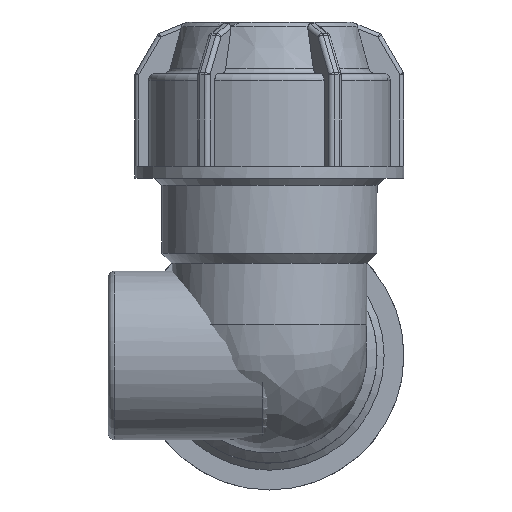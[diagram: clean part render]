
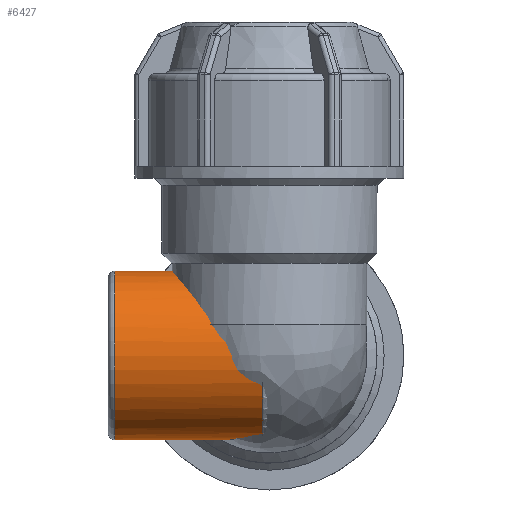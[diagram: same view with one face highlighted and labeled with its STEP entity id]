
A CAD part, left-side view. The second image highlights one B-rep face of the part: STEP entity #6427.
In plain terms, the highlighted cylindrical face has radius 15.676 mm (diameter 31.352 mm), a full revolution.
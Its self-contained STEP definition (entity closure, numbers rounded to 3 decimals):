
#1092=FACE_BOUND('',#2310,.T.);
#1444=CIRCLE('',#7197,15.676);
#1446=CIRCLE('',#7200,15.676);
#1862=FACE_OUTER_BOUND('',#2309,.T.);
#2309=EDGE_LOOP('',(#5870,#5871,#5872));
#2310=EDGE_LOOP('',(#5873));
#2509=B_SPLINE_CURVE_WITH_KNOTS('',3,(#12366,#12367,#12368,#12369,#12370,
#12371,#12372,#12373,#12374,#12375,#12376,#12377,#12378,#12379,#12380,#12381,
#12382,#12383,#12384,#12385,#12386,#12387,#12388,#12389),.UNSPECIFIED.,
 .F.,.F.,(4,2,2,2,2,2,2,2,2,2,2,4),(3.763,3.868,4.097,
4.556,5.007,5.232,5.457,5.683,
5.908,6.359,6.818,6.985),
 .UNSPECIFIED.);
#2512=B_SPLINE_CURVE_WITH_KNOTS('',3,(#12416,#12417,#12418,#12419,#12420,
#12421,#12422,#12423,#12424,#12425,#12426,#12427,#12428,#12429,#12430,#12431,
#12432,#12433,#12434,#12435,#12436,#12437,#12438,#12439),.UNSPECIFIED.,
 .F.,.F.,(4,2,2,2,2,2,2,2,2,2,2,4),(0.291,0.459,
0.918,1.369,1.594,1.819,2.044,
2.27,2.72,3.179,3.409,3.513),
 .UNSPECIFIED.);
#3059=VERTEX_POINT('',#12363);
#3060=VERTEX_POINT('',#12365);
#3062=VERTEX_POINT('',#12405);
#3063=VERTEX_POINT('',#12455);
#3995=EDGE_CURVE('',#3060,#3059,#2509,.T.);
#3999=EDGE_CURVE('',#3059,#3062,#2512,.T.);
#4002=EDGE_CURVE('',#3063,#3063,#1444,.T.);
#4004=EDGE_CURVE('',#3060,#3062,#1446,.T.);
#5870=ORIENTED_EDGE('',*,*,#3999,.T.);
#5871=ORIENTED_EDGE('',*,*,#4004,.F.);
#5872=ORIENTED_EDGE('',*,*,#3995,.T.);
#5873=ORIENTED_EDGE('',*,*,#4002,.F.);
#6012=CYLINDRICAL_SURFACE('',#7199,15.676);
#6427=ADVANCED_FACE('',(#1862,#1092),#6012,.T.);
#7197=AXIS2_PLACEMENT_3D('',#12456,#9095,#9096);
#7199=AXIS2_PLACEMENT_3D('',#12459,#9099,#9100);
#7200=AXIS2_PLACEMENT_3D('',#12460,#9101,#9102);
#9095=DIRECTION('center_axis',(0.,1.,0.));
#9096=DIRECTION('ref_axis',(1.,0.,0.));
#9099=DIRECTION('center_axis',(0.,1.,0.));
#9100=DIRECTION('ref_axis',(-1.,0.,0.));
#9101=DIRECTION('center_axis',(0.,-1.,0.));
#9102=DIRECTION('ref_axis',(1.,0.,0.));
#12363=CARTESIAN_POINT('',(11.085,2.892,11.085));
#12365=CARTESIAN_POINT('',(-11.387,1.25,10.774));
#12366=CARTESIAN_POINT('Ctrl Pts',(-11.387,1.25,10.774));
#12367=CARTESIAN_POINT('Ctrl Pts',(-11.349,1.598,10.814));
#12368=CARTESIAN_POINT('Ctrl Pts',(-11.295,1.944,10.871));
#12369=CARTESIAN_POINT('Ctrl Pts',(-11.072,3.038,11.1));
#12370=CARTESIAN_POINT('Ctrl Pts',(-10.843,3.771,11.328));
#12371=CARTESIAN_POINT('Ctrl Pts',(-9.959,5.859,12.132));
#12372=CARTESIAN_POINT('Ctrl Pts',(-9.095,7.105,12.821));
#12373=CARTESIAN_POINT('Ctrl Pts',(-7.123,9.077,14.011));
#12374=CARTESIAN_POINT('Ctrl Pts',(-5.875,9.952,14.607));
#12375=CARTESIAN_POINT('Ctrl Pts',(-3.768,10.845,15.234));
#12376=CARTESIAN_POINT('Ctrl Pts',(-3.027,11.075,15.4));
#12377=CARTESIAN_POINT('Ctrl Pts',(-1.518,11.381,15.621));
#12378=CARTESIAN_POINT('Ctrl Pts',(-0.751,11.456,15.676));
#12379=CARTESIAN_POINT('Ctrl Pts',(0.751,11.456,15.676));
#12380=CARTESIAN_POINT('Ctrl Pts',(1.518,11.381,15.621));
#12381=CARTESIAN_POINT('Ctrl Pts',(3.027,11.075,15.4));
#12382=CARTESIAN_POINT('Ctrl Pts',(3.768,10.845,15.234));
#12383=CARTESIAN_POINT('Ctrl Pts',(5.875,9.952,14.607));
#12384=CARTESIAN_POINT('Ctrl Pts',(7.123,9.077,14.011));
#12385=CARTESIAN_POINT('Ctrl Pts',(9.095,7.105,12.821));
#12386=CARTESIAN_POINT('Ctrl Pts',(9.959,5.859,12.132));
#12387=CARTESIAN_POINT('Ctrl Pts',(10.764,3.959,11.4));
#12388=CARTESIAN_POINT('Ctrl Pts',(10.944,3.432,11.226));
#12389=CARTESIAN_POINT('Ctrl Pts',(11.085,2.892,11.085));
#12405=CARTESIAN_POINT('',(10.774,1.25,-11.387));
#12416=CARTESIAN_POINT('Ctrl Pts',(11.085,2.892,11.085));
#12417=CARTESIAN_POINT('Ctrl Pts',(11.226,3.432,10.944));
#12418=CARTESIAN_POINT('Ctrl Pts',(11.4,3.959,10.764));
#12419=CARTESIAN_POINT('Ctrl Pts',(12.132,5.859,9.959));
#12420=CARTESIAN_POINT('Ctrl Pts',(12.821,7.105,9.095));
#12421=CARTESIAN_POINT('Ctrl Pts',(14.011,9.077,7.123));
#12422=CARTESIAN_POINT('Ctrl Pts',(14.607,9.952,5.875));
#12423=CARTESIAN_POINT('Ctrl Pts',(15.234,10.845,3.768));
#12424=CARTESIAN_POINT('Ctrl Pts',(15.4,11.075,3.027));
#12425=CARTESIAN_POINT('Ctrl Pts',(15.621,11.381,1.518));
#12426=CARTESIAN_POINT('Ctrl Pts',(15.676,11.456,0.751));
#12427=CARTESIAN_POINT('Ctrl Pts',(15.676,11.456,-0.751));
#12428=CARTESIAN_POINT('Ctrl Pts',(15.621,11.381,-1.518));
#12429=CARTESIAN_POINT('Ctrl Pts',(15.4,11.075,-3.027));
#12430=CARTESIAN_POINT('Ctrl Pts',(15.234,10.845,-3.768));
#12431=CARTESIAN_POINT('Ctrl Pts',(14.607,9.952,-5.875));
#12432=CARTESIAN_POINT('Ctrl Pts',(14.011,9.077,-7.123));
#12433=CARTESIAN_POINT('Ctrl Pts',(12.821,7.105,-9.095));
#12434=CARTESIAN_POINT('Ctrl Pts',(12.132,5.859,-9.959));
#12435=CARTESIAN_POINT('Ctrl Pts',(11.328,3.771,-10.843));
#12436=CARTESIAN_POINT('Ctrl Pts',(11.1,3.038,-11.072));
#12437=CARTESIAN_POINT('Ctrl Pts',(10.871,1.944,-11.295));
#12438=CARTESIAN_POINT('Ctrl Pts',(10.814,1.598,-11.349));
#12439=CARTESIAN_POINT('Ctrl Pts',(10.774,1.25,-11.387));
#12455=CARTESIAN_POINT('',(-15.676,28.75,0.));
#12456=CARTESIAN_POINT('Origin',(0.,28.75,0.));
#12459=CARTESIAN_POINT('Origin',(0.,15.,0.));
#12460=CARTESIAN_POINT('Origin',(0.,1.25,0.));
